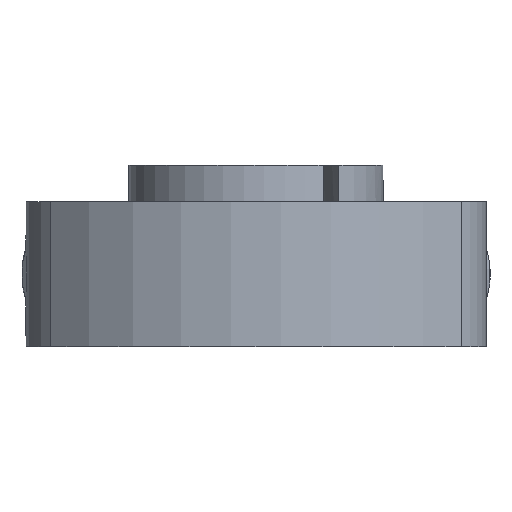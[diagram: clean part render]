
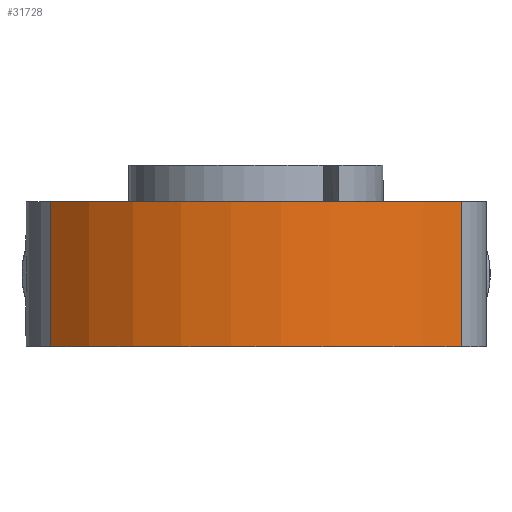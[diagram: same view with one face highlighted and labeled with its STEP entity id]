
A CAD part, front view. The second image highlights one B-rep face of the part: STEP entity #31728.
In plain terms, the highlighted cylindrical face has radius 16 mm (diameter 32 mm), a partial arc.
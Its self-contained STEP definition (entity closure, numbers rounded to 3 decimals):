
#1057 = EDGE_LOOP ( 'NONE', ( #53141, #36178, #28439, #44622 ) ) ;
#1520 = VECTOR ( 'NONE', #52142, 1000. ) ;
#5215 = AXIS2_PLACEMENT_3D ( 'NONE', #19753, #31787, #6807 ) ;
#6229 = DIRECTION ( 'NONE',  ( -1., 0., 0. ) ) ;
#6675 = VERTEX_POINT ( 'NONE', #31347 ) ;
#6807 = DIRECTION ( 'NONE',  ( -1., 0., 0. ) ) ;
#7536 = VERTEX_POINT ( 'NONE', #18241 ) ;
#7883 = CIRCLE ( 'NONE', #50101, 16. ) ;
#9473 = CARTESIAN_POINT ( 'NONE',  ( 0., 0., 4. ) ) ;
#15565 = EDGE_CURVE ( 'NONE', #6675, #7536, #45238, .T. ) ;
#16662 = VERTEX_POINT ( 'NONE', #17742 ) ;
#17742 = CARTESIAN_POINT ( 'NONE',  ( -11.314, -11.314, 4. ) ) ;
#18239 = EDGE_CURVE ( 'NONE', #6675, #16662, #7883, .T. ) ;
#18241 = CARTESIAN_POINT ( 'NONE',  ( 11.314, -11.314, -4. ) ) ;
#18456 = CARTESIAN_POINT ( 'NONE',  ( -11.314, -11.314, 4. ) ) ;
#19753 = CARTESIAN_POINT ( 'NONE',  ( 0., 0., -4. ) ) ;
#22980 = CARTESIAN_POINT ( 'NONE',  ( 0., 0., 4. ) ) ;
#23170 = DIRECTION ( 'NONE',  ( 0., 0., -1. ) ) ;
#28439 = ORIENTED_EDGE ( 'NONE', *, *, #50427, .T. ) ;
#28843 = AXIS2_PLACEMENT_3D ( 'NONE', #9473, #39556, #39893 ) ;
#29625 = FACE_OUTER_BOUND ( 'NONE', #1057, .T. ) ;
#30836 = EDGE_CURVE ( 'NONE', #16662, #39187, #36774, .T. ) ;
#31347 = CARTESIAN_POINT ( 'NONE',  ( 11.314, -11.314, 4. ) ) ;
#31386 = DIRECTION ( 'NONE',  ( 0., 0., -1. ) ) ;
#31728 = ADVANCED_FACE ( 'NONE', ( #29625 ), #36103, .T. ) ;
#31787 = DIRECTION ( 'NONE',  ( 0., 0., 1. ) ) ;
#35477 = VECTOR ( 'NONE', #23170, 1000. ) ;
#36103 = CYLINDRICAL_SURFACE ( 'NONE', #28843, 16. ) ;
#36178 = ORIENTED_EDGE ( 'NONE', *, *, #30836, .T. ) ;
#36774 = LINE ( 'NONE', #18456, #35477 ) ;
#39187 = VERTEX_POINT ( 'NONE', #53624 ) ;
#39556 = DIRECTION ( 'NONE',  ( 0., 0., -1. ) ) ;
#39893 = DIRECTION ( 'NONE',  ( -1., 0., 0. ) ) ;
#43167 = CIRCLE ( 'NONE', #5215, 16. ) ;
#44622 = ORIENTED_EDGE ( 'NONE', *, *, #15565, .F. ) ;
#45238 = LINE ( 'NONE', #52493, #1520 ) ;
#50101 = AXIS2_PLACEMENT_3D ( 'NONE', #22980, #31386, #6229 ) ;
#50427 = EDGE_CURVE ( 'NONE', #39187, #7536, #43167, .T. ) ;
#52142 = DIRECTION ( 'NONE',  ( 0., 0., -1. ) ) ;
#52493 = CARTESIAN_POINT ( 'NONE',  ( 11.314, -11.314, -4. ) ) ;
#53141 = ORIENTED_EDGE ( 'NONE', *, *, #18239, .T. ) ;
#53624 = CARTESIAN_POINT ( 'NONE',  ( -11.314, -11.314, -4. ) ) ;
